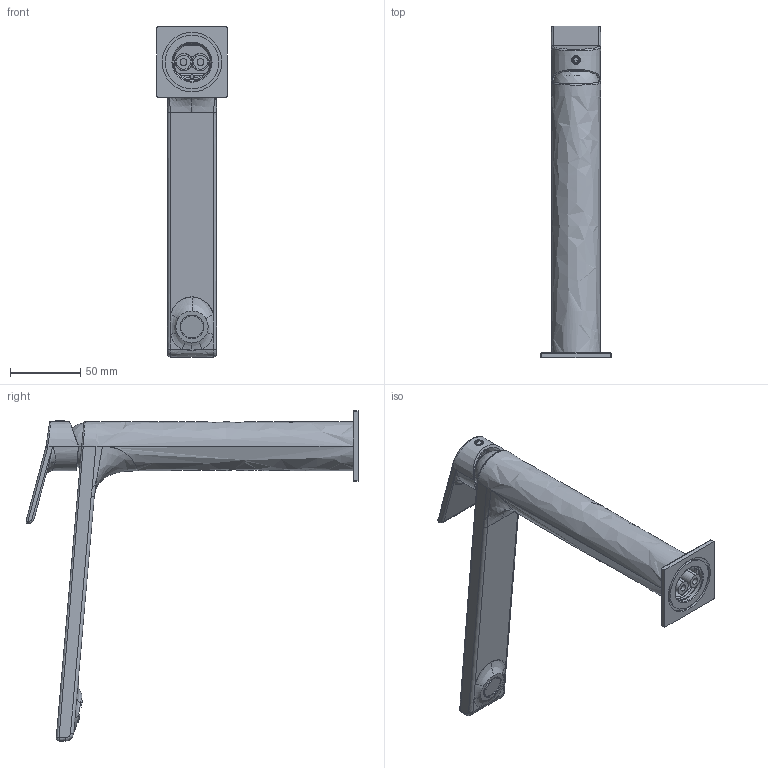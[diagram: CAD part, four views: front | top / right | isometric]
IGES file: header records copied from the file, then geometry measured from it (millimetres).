
Start section:  PTC IGES file: 74040.igs
Global section: file name: 74040.igs; native system: Creo Parametric by PTC Inc.; preprocessor: 2022014; author: carloff; organization: Unknown; date: 20260420.084925; units: millimetre
Bounding box: 50 x 236.39 x 235 mm (x, y, z)
Surface area: 106368.8 mm2 (no closed solid volume)
Topology: 0 solids, 0 shells, 1127 faces, 5401 edges, 5390 vertices
Faces by surface type: revolution 611, bspline 516
